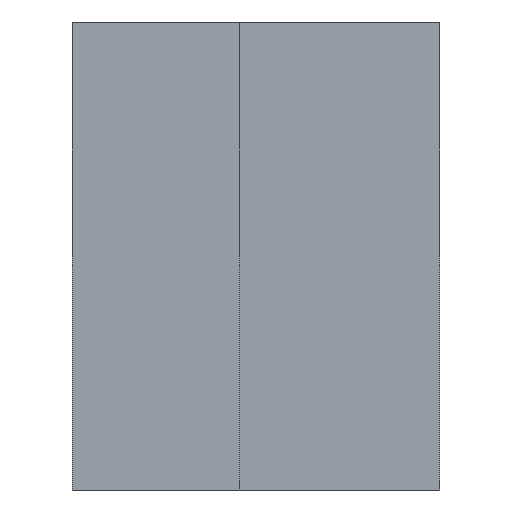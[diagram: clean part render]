
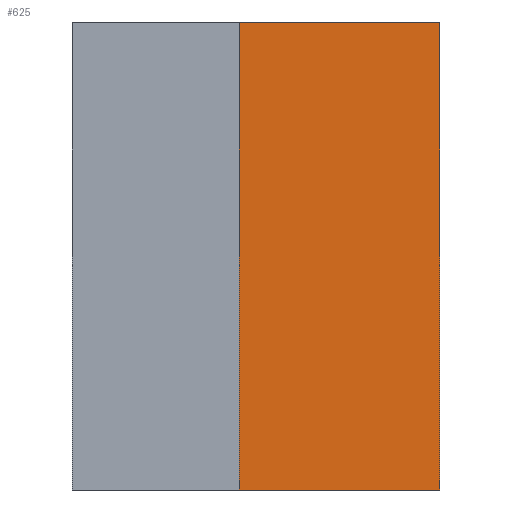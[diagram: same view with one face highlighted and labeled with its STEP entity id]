
A CAD part, left-side view. The second image highlights one B-rep face of the part: STEP entity #625.
In plain terms, the highlighted planar face has unit normal (-1, 0, 0).
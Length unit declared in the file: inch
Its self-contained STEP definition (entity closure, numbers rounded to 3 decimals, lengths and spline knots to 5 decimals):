
#265=CARTESIAN_POINT('',(-0.725,0.24,0.0));
#266=VERTEX_POINT('',#265);
#273=CARTESIAN_POINT('',(-0.725,0.0,0.0));
#274=VERTEX_POINT('',#273);
#275=CARTESIAN_POINT('',(-0.725,0.24,0.0));
#276=DIRECTION('',(0.0,-1.0,0.0));
#277=VECTOR('',#276,0.24);
#278=LINE('',#275,#277);
#279=EDGE_CURVE('',#266,#274,#278,.T.);
#580=CARTESIAN_POINT('',(-0.725,0.24,-0.56));
#581=VERTEX_POINT('',#580);
#588=CARTESIAN_POINT('',(-0.725,0.24,0.0));
#589=DIRECTION('',(0.0,0.0,-1.0));
#590=VECTOR('',#589,0.56);
#591=LINE('',#588,#590);
#592=EDGE_CURVE('',#266,#581,#591,.T.);
#602=CARTESIAN_POINT('',(-0.725,0.24,0.0));
#603=DIRECTION('',(-1.0,0.0,0.0));
#604=DIRECTION('',(0.0,0.0,1.0));
#605=AXIS2_PLACEMENT_3D('',#602,#603,#604);
#606=PLANE('',#605);
#607=CARTESIAN_POINT('',(-0.725,0.0,-0.56));
#608=VERTEX_POINT('',#607);
#609=CARTESIAN_POINT('',(-0.725,0.24,-0.56));
#610=DIRECTION('',(0.0,-1.0,0.0));
#611=VECTOR('',#610,0.24);
#612=LINE('',#609,#611);
#613=EDGE_CURVE('',#581,#608,#612,.T.);
#614=ORIENTED_EDGE('',*,*,#613,.T.);
#615=CARTESIAN_POINT('',(-0.725,0.0,0.0));
#616=DIRECTION('',(0.0,0.0,-1.0));
#617=VECTOR('',#616,0.56);
#618=LINE('',#615,#617);
#619=EDGE_CURVE('',#274,#608,#618,.T.);
#620=ORIENTED_EDGE('',*,*,#619,.F.);
#621=ORIENTED_EDGE('',*,*,#279,.F.);
#622=ORIENTED_EDGE('',*,*,#592,.T.);
#623=EDGE_LOOP('',(#614,#620,#621,#622));
#624=FACE_OUTER_BOUND('',#623,.T.);
#625=ADVANCED_FACE('',(#624),#606,.T.);
